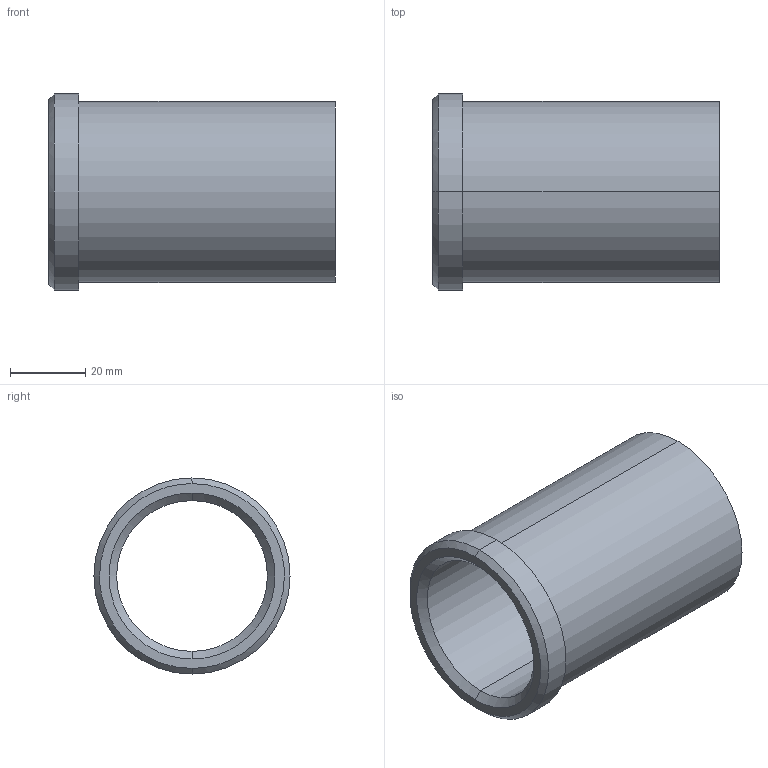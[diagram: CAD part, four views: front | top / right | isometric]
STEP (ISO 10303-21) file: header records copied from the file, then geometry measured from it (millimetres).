
FILE_DESCRIPTION(('CATIA V5 STEP Exchange'),'2;1');
FILE_NAME('C:\Users\Utente\Desktop\IO LAVORO\3D X SITO CF\X SITO\PLASTICA\353\353-40X76.stp','2021-05-13T18:24:28+00:00',('none'),('none'),'CATIA Version 5 Release 20 GA (IN-10)','CATIA V5 STEP AP203','none');
FILE_SCHEMA(('CONFIG_CONTROL_DESIGN'));
Length unit declared in the file: millimetre
Products named in the file (1): 353-40X76
Bounding box: 76 x 52 x 52 mm (x, y, z)
Volume: 43985 mm3; surface area: 22451.1 mm2
Topology: 1 solids, 1 shells, 15 faces, 48 edges, 36 vertices
Faces by surface type: cylinder 6, cone 4, plane 3, torus 2
Entity records: 680 total; most frequent: CARTESIAN_POINT 212, ORIENTED_EDGE 96, DIRECTION 70, EDGE_CURVE 48, AXIS2_PLACEMENT_3D 46, VERTEX_POINT 36, CIRCLE 30, EDGE_LOOP 18
